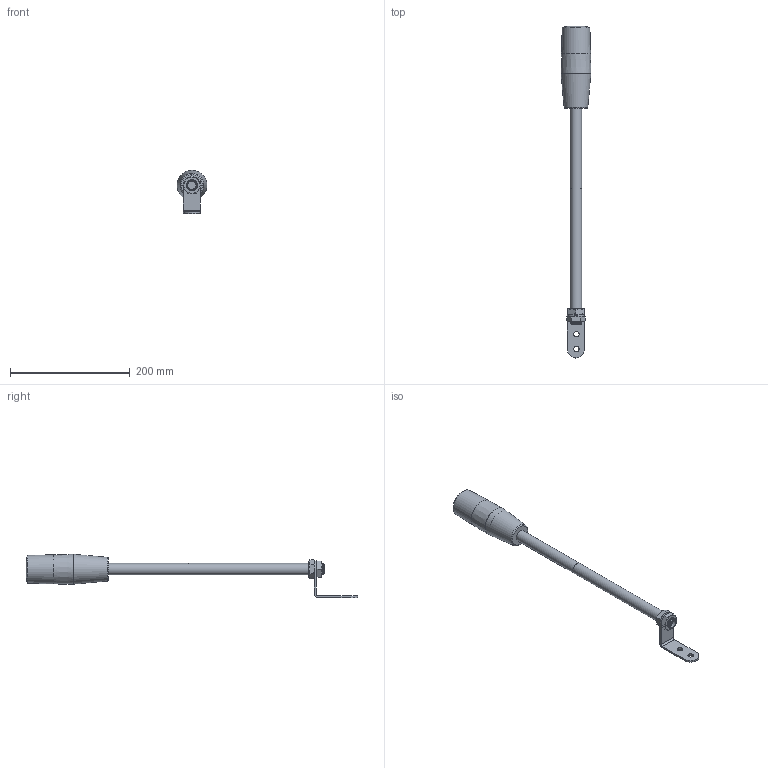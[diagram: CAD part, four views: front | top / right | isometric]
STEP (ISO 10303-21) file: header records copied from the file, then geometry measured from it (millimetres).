
FILE_DESCRIPTION (( 'STEP AP203' ), '1' );
FILE_NAME ('MC50-B.STEP', '2025-05-29T12:59:40', ( '' ), ( '' ), 'SwSTEP 2.0', 'SolidWorks 2024', '' );
FILE_SCHEMA (( 'CONFIG_CONTROL_DESIGN' ));
Length unit declared in the file: millimetre
Products named in the file (6): Rod 14.75_90322A200; 90326A140_90326A140; A-SL90; MC50-B; A-SL90-2; MC50-SW
Assembly tree (6 placements, depth 3):
  MC50-B
    MC50-SW
    A-SL90
      90326A140_90326A140  x2
      A-SL90-2
    Rod 14.75_90322A200
Bounding box: 50.12 x 555.48 x 72.72 mm (x, y, z)
Volume: 350433.8 mm3; surface area: 140319.8 mm2
Topology: 8 solids, 8 shells, 112 faces, 237 edges, 148 vertices
Faces by surface type: plane 39, cone 36, cylinder 18, bspline 11, torus 8
Full cylindrical faces by diameter (mm): 9 x2, 14 x1, 18.3 x2, 19.292 x1, 45.5 x2
Entity records: 22089 total; most frequent: CARTESIAN_POINT 19829, DIRECTION 341, ORIENTED_EDGE 288, AXIS2_PLACEMENT_3D 155, EDGE_CURVE 144, EDGE_LOOP 123, VERTEX_POINT 103, FACE_OUTER_BOUND 101
